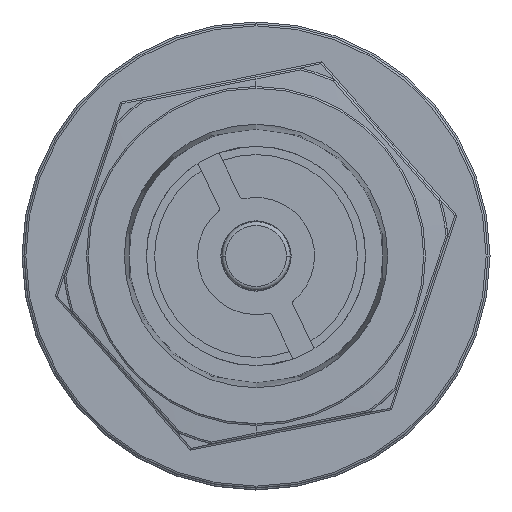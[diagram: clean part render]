
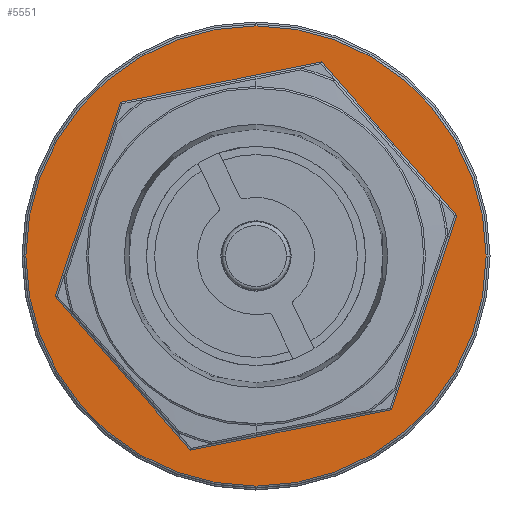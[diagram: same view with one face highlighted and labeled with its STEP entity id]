
A CAD part, left-side view. The second image highlights one B-rep face of the part: STEP entity #5551.
In plain terms, the highlighted planar face has unit normal (-1, 0, 0).
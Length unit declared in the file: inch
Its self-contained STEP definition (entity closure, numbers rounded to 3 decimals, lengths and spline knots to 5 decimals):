
#240 = DIRECTION ( 'NONE',  ( 0., -0.98, 0.198 ) ) ;
#303 = CARTESIAN_POINT ( 'NONE',  ( -0.635, 0., 0. ) ) ;
#344 = LINE ( 'NONE', #1137, #7718 ) ;
#487 = EDGE_CURVE ( 'NONE', #1208, #7585, #3139, .T. ) ;
#553 = EDGE_CURVE ( 'NONE', #1731, #7478, #344, .T. ) ;
#699 = LINE ( 'NONE', #6200, #2377 ) ;
#1023 = DIRECTION ( 'NONE',  ( 0., 0., 1. ) ) ;
#1137 = CARTESIAN_POINT ( 'NONE',  ( -0.635, -0.34831, -0.39142 ) ) ;
#1208 = VERTEX_POINT ( 'NONE', #8767 ) ;
#1519 = PLANE ( 'NONE',  #6340 ) ;
#1650 = ORIENTED_EDGE ( 'NONE', *, *, #2215, .T. ) ;
#1655 = CARTESIAN_POINT ( 'NONE',  ( -0.635, 0.34831, 0.39142 ) ) ;
#1718 = LINE ( 'NONE', #8842, #7201 ) ;
#1731 = VERTEX_POINT ( 'NONE', #3743 ) ;
#1841 = VECTOR ( 'NONE', #7380, 39.37008 ) ;
#1986 = EDGE_CURVE ( 'NONE', #4443, #7981, #3195, .T. ) ;
#2091 = DIRECTION ( 'NONE',  ( 0., 0.98, -0.198 ) ) ;
#2132 = VERTEX_POINT ( 'NONE', #7657 ) ;
#2215 = EDGE_CURVE ( 'NONE', #7585, #2132, #2739, .T. ) ;
#2295 = ORIENTED_EDGE ( 'NONE', *, *, #4429, .T. ) ;
#2377 = VECTOR ( 'NONE', #4063, 39.37008 ) ;
#2386 = VECTOR ( 'NONE', #2091, 39.37008 ) ;
#2446 = ORIENTED_EDGE ( 'NONE', *, *, #8113, .T. ) ;
#2564 = CARTESIAN_POINT ( 'NONE',  ( -0.635, 0., 0. ) ) ;
#2739 = LINE ( 'NONE', #1655, #1841 ) ;
#2821 = CARTESIAN_POINT ( 'NONE',  ( -0.635, 0.16482, -0.49735 ) ) ;
#2912 = EDGE_LOOP ( 'NONE', ( #6845, #8213 ) ) ;
#2935 = FACE_BOUND ( 'NONE', #7932, .T. ) ;
#2968 = DIRECTION ( 'NONE',  ( 0., 0., 1. ) ) ;
#3139 = LINE ( 'NONE', #6555, #6492 ) ;
#3195 = CIRCLE ( 'NONE', #7917, 0.59 ) ;
#3211 = CARTESIAN_POINT ( 'NONE',  ( -0.635, 0., -0.59 ) ) ;
#3277 = DIRECTION ( 'NONE',  ( 0., 0., 1. ) ) ;
#3638 = CARTESIAN_POINT ( 'NONE',  ( -0.635, 0., 0. ) ) ;
#3743 = CARTESIAN_POINT ( 'NONE',  ( -0.635, -0.51504, 0.10377 ) ) ;
#3788 = CARTESIAN_POINT ( 'NONE',  ( -0.635, -0.16765, 0.49792 ) ) ;
#4063 = DIRECTION ( 'NONE',  ( 0., -0.661, -0.75 ) ) ;
#4320 = ORIENTED_EDGE ( 'NONE', *, *, #5132, .T. ) ;
#4409 = VERTEX_POINT ( 'NONE', #3788 ) ;
#4429 = EDGE_CURVE ( 'NONE', #2132, #4409, #1718, .T. ) ;
#4443 = VERTEX_POINT ( 'NONE', #4510 ) ;
#4510 = CARTESIAN_POINT ( 'NONE',  ( -0.635, 0., 0.59 ) ) ;
#4809 = CIRCLE ( 'NONE', #8397, 0.59 ) ;
#5132 = EDGE_CURVE ( 'NONE', #7478, #1208, #9019, .T. ) ;
#5286 = DIRECTION ( 'NONE',  ( -1., 0., 0. ) ) ;
#5428 = ORIENTED_EDGE ( 'NONE', *, *, #553, .T. ) ;
#5551 = ADVANCED_FACE ( 'NONE', ( #2935, #8435 ), #1519, .T. ) ;
#6200 = CARTESIAN_POINT ( 'NONE',  ( -0.635, -0.51313, 0.10593 ) ) ;
#6302 = CARTESIAN_POINT ( 'NONE',  ( -0.635, -0.34739, -0.39415 ) ) ;
#6340 = AXIS2_PLACEMENT_3D ( 'NONE', #3638, #7251, #2968 ) ;
#6449 = EDGE_CURVE ( 'NONE', #7981, #4443, #4809, .T. ) ;
#6492 = VECTOR ( 'NONE', #7580, 39.37008 ) ;
#6555 = CARTESIAN_POINT ( 'NONE',  ( -0.635, 0.51313, -0.10593 ) ) ;
#6845 = ORIENTED_EDGE ( 'NONE', *, *, #1986, .T. ) ;
#6885 = ORIENTED_EDGE ( 'NONE', *, *, #487, .T. ) ;
#7201 = VECTOR ( 'NONE', #240, 39.37008 ) ;
#7251 = DIRECTION ( 'NONE',  ( -1., 0., 0. ) ) ;
#7380 = DIRECTION ( 'NONE',  ( 0., -0.319, 0.948 ) ) ;
#7478 = VERTEX_POINT ( 'NONE', #6302 ) ;
#7568 = DIRECTION ( 'NONE',  ( -1., 0., 0. ) ) ;
#7580 = DIRECTION ( 'NONE',  ( 0., 0.661, 0.75 ) ) ;
#7585 = VERTEX_POINT ( 'NONE', #9281 ) ;
#7657 = CARTESIAN_POINT ( 'NONE',  ( -0.635, 0.34739, 0.39415 ) ) ;
#7718 = VECTOR ( 'NONE', #9015, 39.37008 ) ;
#7917 = AXIS2_PLACEMENT_3D ( 'NONE', #2564, #7568, #3277 ) ;
#7932 = EDGE_LOOP ( 'NONE', ( #4320, #6885, #1650, #2295, #2446, #5428 ) ) ;
#7981 = VERTEX_POINT ( 'NONE', #3211 ) ;
#8113 = EDGE_CURVE ( 'NONE', #4409, #1731, #699, .T. ) ;
#8213 = ORIENTED_EDGE ( 'NONE', *, *, #6449, .T. ) ;
#8397 = AXIS2_PLACEMENT_3D ( 'NONE', #303, #5286, #1023 ) ;
#8435 = FACE_OUTER_BOUND ( 'NONE', #2912, .T. ) ;
#8767 = CARTESIAN_POINT ( 'NONE',  ( -0.635, 0.16765, -0.49792 ) ) ;
#8842 = CARTESIAN_POINT ( 'NONE',  ( -0.635, -0.16482, 0.49735 ) ) ;
#9015 = DIRECTION ( 'NONE',  ( 0., 0.319, -0.948 ) ) ;
#9019 = LINE ( 'NONE', #2821, #2386 ) ;
#9281 = CARTESIAN_POINT ( 'NONE',  ( -0.635, 0.51504, -0.10377 ) ) ;
